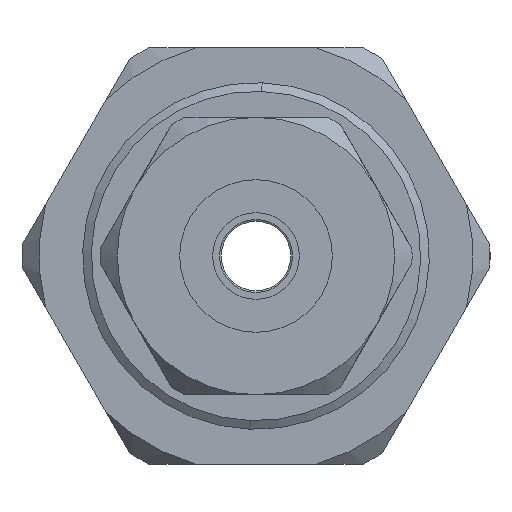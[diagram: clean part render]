
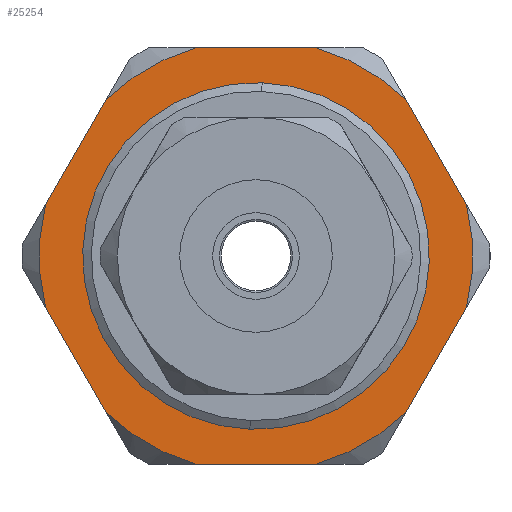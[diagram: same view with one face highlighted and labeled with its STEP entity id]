
A CAD part, front view. The second image highlights one B-rep face of the part: STEP entity #25254.
In plain terms, the highlighted planar face has unit normal (0, -1, 0).
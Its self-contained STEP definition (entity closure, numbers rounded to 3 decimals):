
#51 = EDGE_CURVE ( 'NONE', #14370, #35023, #706, .T. ) ;
#204 = LINE ( 'NONE', #19655, #20515 ) ;
#627 = LINE ( 'NONE', #27781, #20948 ) ;
#705 = EDGE_CURVE ( 'NONE', #30288, #8406, #14824, .T. ) ;
#706 = LINE ( 'NONE', #10835, #29220 ) ;
#1072 = VERTEX_POINT ( 'NONE', #24617 ) ;
#1698 = CIRCLE ( 'NONE', #26756, 12.5 ) ;
#1699 = CIRCLE ( 'NONE', #22076, 9.25 ) ;
#1904 = AXIS2_PLACEMENT_3D ( 'NONE', #28217, #11634, #30977 ) ;
#1966 = VERTEX_POINT ( 'NONE', #32599 ) ;
#1997 = DIRECTION ( 'NONE',  ( 0.866, 0., 0.5 ) ) ;
#2113 = CARTESIAN_POINT ( 'NONE',  ( -27.525, -20.608, 172. ) ) ;
#2259 = CARTESIAN_POINT ( 'NONE',  ( -24.025, -20.608, 160. ) ) ;
#2383 = DIRECTION ( 'NONE',  ( 0., -1., 0. ) ) ;
#2423 = AXIS2_PLACEMENT_3D ( 'NONE', #11741, #31085, #14513 ) ;
#2675 = CIRCLE ( 'NONE', #2423, 12.5 ) ;
#3369 = ORIENTED_EDGE ( 'NONE', *, *, #26616, .T. ) ;
#3647 = EDGE_LOOP ( 'NONE', ( #3369, #32502, #15849, #20356, #4917, #18622, #32172, #10454, #16583, #29407, #32620, #12025 ) ) ;
#4056 = VERTEX_POINT ( 'NONE', #14219 ) ;
#4917 = ORIENTED_EDGE ( 'NONE', *, *, #33790, .T. ) ;
#5017 = DIRECTION ( 'NONE',  ( 0.866, 0., 0.5 ) ) ;
#6797 = DIRECTION ( 'NONE',  ( 0., -1., 0. ) ) ;
#7466 = FACE_OUTER_BOUND ( 'NONE', #3647, .T. ) ;
#8406 = VERTEX_POINT ( 'NONE', #33412 ) ;
#8922 = CARTESIAN_POINT ( 'NONE',  ( -11.882, -20.608, 162.969 ) ) ;
#9483 = CARTESIAN_POINT ( 'NONE',  ( -20.525, -20.608, 172. ) ) ;
#10454 = ORIENTED_EDGE ( 'NONE', *, *, #20064, .T. ) ;
#10835 = CARTESIAN_POINT ( 'NONE',  ( -10.453, -20.608, 160.494 ) ) ;
#11193 = DIRECTION ( 'NONE',  ( 1., 0., 0. ) ) ;
#11562 = CARTESIAN_POINT ( 'NONE',  ( -36.167, -20.608, 157.031 ) ) ;
#11634 = DIRECTION ( 'NONE',  ( 0., -1., 0. ) ) ;
#11741 = CARTESIAN_POINT ( 'NONE',  ( -24.025, -20.608, 160. ) ) ;
#11777 = CIRCLE ( 'NONE', #16466, 12.5 ) ;
#12025 = ORIENTED_EDGE ( 'NONE', *, *, #23357, .T. ) ;
#12374 = DIRECTION ( 'NONE',  ( -1., 0., 0. ) ) ;
#12622 = VERTEX_POINT ( 'NONE', #23686 ) ;
#12735 = EDGE_LOOP ( 'NONE', ( #22148, #21108 ) ) ;
#13950 = CARTESIAN_POINT ( 'NONE',  ( -24.025, -20.608, 160. ) ) ;
#14063 = EDGE_CURVE ( 'NONE', #26608, #24633, #34244, .T. ) ;
#14219 = CARTESIAN_POINT ( 'NONE',  ( -32.035, -20.608, 155.375 ) ) ;
#14370 = VERTEX_POINT ( 'NONE', #8922 ) ;
#14513 = DIRECTION ( 'NONE',  ( 0.866, 0., 0.5 ) ) ;
#14542 = LINE ( 'NONE', #28936, #35777 ) ;
#14633 = VECTOR ( 'NONE', #23004, 1000. ) ;
#14744 = EDGE_CURVE ( 'NONE', #4056, #21649, #1699, .T. ) ;
#14824 = CIRCLE ( 'NONE', #16856, 12.5 ) ;
#15688 = DIRECTION ( 'NONE',  ( 0., 1., 0. ) ) ;
#15849 = ORIENTED_EDGE ( 'NONE', *, *, #51, .T. ) ;
#15984 = DIRECTION ( 'NONE',  ( 0., 1., 0. ) ) ;
#16086 = VECTOR ( 'NONE', #24127, 1000. ) ;
#16466 = AXIS2_PLACEMENT_3D ( 'NONE', #23381, #6797, #26171 ) ;
#16583 = ORIENTED_EDGE ( 'NONE', *, *, #28434, .T. ) ;
#16722 = DIRECTION ( 'NONE',  ( 0.866, 0., 0.5 ) ) ;
#16731 = CARTESIAN_POINT ( 'NONE',  ( -32.667, -20.608, 150.969 ) ) ;
#16751 = CIRCLE ( 'NONE', #30783, 9.25 ) ;
#16812 = EDGE_CURVE ( 'NONE', #24633, #1072, #627, .T. ) ;
#16856 = AXIS2_PLACEMENT_3D ( 'NONE', #23310, #2383, #35052 ) ;
#16991 = VERTEX_POINT ( 'NONE', #9483 ) ;
#17129 = CIRCLE ( 'NONE', #1904, 12.5 ) ;
#17246 = EDGE_CURVE ( 'NONE', #8406, #1966, #23477, .T. ) ;
#17272 = CARTESIAN_POINT ( 'NONE',  ( -15.382, -20.608, 169.031 ) ) ;
#18525 = DIRECTION ( 'NONE',  ( 0., -1., 0. ) ) ;
#18622 = ORIENTED_EDGE ( 'NONE', *, *, #705, .T. ) ;
#19127 = CARTESIAN_POINT ( 'NONE',  ( -16.014, -20.608, 164.625 ) ) ;
#19274 = CARTESIAN_POINT ( 'NONE',  ( -11.882, -20.608, 157.031 ) ) ;
#19278 = PLANE ( 'NONE',  #21495 ) ;
#19512 = DIRECTION ( 'NONE',  ( -0.5, 0., 0.866 ) ) ;
#19655 = CARTESIAN_POINT ( 'NONE',  ( -16.811, -20.608, 148.494 ) ) ;
#20064 = EDGE_CURVE ( 'NONE', #1966, #24566, #17129, .T. ) ;
#20356 = ORIENTED_EDGE ( 'NONE', *, *, #27244, .T. ) ;
#20515 = VECTOR ( 'NONE', #30635, 1000. ) ;
#20948 = VECTOR ( 'NONE', #11193, 1000. ) ;
#21108 = ORIENTED_EDGE ( 'NONE', *, *, #14744, .T. ) ;
#21495 = AXIS2_PLACEMENT_3D ( 'NONE', #13950, #33313, #16722 ) ;
#21579 = DIRECTION ( 'NONE',  ( 0., -1., 0. ) ) ;
#21649 = VERTEX_POINT ( 'NONE', #19127 ) ;
#22076 = AXIS2_PLACEMENT_3D ( 'NONE', #32260, #15688, #35084 ) ;
#22148 = ORIENTED_EDGE ( 'NONE', *, *, #29842, .T. ) ;
#22174 = FACE_BOUND ( 'NONE', #12735, .T. ) ;
#22699 = CARTESIAN_POINT ( 'NONE',  ( -27.525, -20.608, 148. ) ) ;
#23004 = DIRECTION ( 'NONE',  ( 0.5, 0., -0.866 ) ) ;
#23310 = CARTESIAN_POINT ( 'NONE',  ( -24.025, -20.608, 160. ) ) ;
#23357 = EDGE_CURVE ( 'NONE', #1072, #12622, #1698, .T. ) ;
#23381 = CARTESIAN_POINT ( 'NONE',  ( -24.025, -20.608, 160. ) ) ;
#23477 = LINE ( 'NONE', #24001, #16086 ) ;
#23502 = VERTEX_POINT ( 'NONE', #19274 ) ;
#23686 = CARTESIAN_POINT ( 'NONE',  ( -15.382, -20.608, 150.969 ) ) ;
#24001 = CARTESIAN_POINT ( 'NONE',  ( -31.238, -20.608, 171.506 ) ) ;
#24127 = DIRECTION ( 'NONE',  ( -0.5, 0., -0.866 ) ) ;
#24566 = VERTEX_POINT ( 'NONE', #11562 ) ;
#24617 = CARTESIAN_POINT ( 'NONE',  ( -20.525, -20.608, 148. ) ) ;
#24633 = VERTEX_POINT ( 'NONE', #22699 ) ;
#25254 = ADVANCED_FACE ( 'NONE', ( #7466, #22174 ), #19278, .F. ) ;
#26171 = DIRECTION ( 'NONE',  ( 0.866, 0., 0.5 ) ) ;
#26469 = AXIS2_PLACEMENT_3D ( 'NONE', #35126, #18525, #1997 ) ;
#26608 = VERTEX_POINT ( 'NONE', #16731 ) ;
#26616 = EDGE_CURVE ( 'NONE', #12622, #23502, #204, .T. ) ;
#26756 = AXIS2_PLACEMENT_3D ( 'NONE', #2259, #21579, #5017 ) ;
#27244 = EDGE_CURVE ( 'NONE', #35023, #16991, #2675, .T. ) ;
#27781 = CARTESIAN_POINT ( 'NONE',  ( -30.383, -20.608, 148. ) ) ;
#28217 = CARTESIAN_POINT ( 'NONE',  ( -24.025, -20.608, 160. ) ) ;
#28434 = EDGE_CURVE ( 'NONE', #24566, #26608, #35869, .T. ) ;
#28936 = CARTESIAN_POINT ( 'NONE',  ( -17.667, -20.608, 172. ) ) ;
#29220 = VECTOR ( 'NONE', #19512, 1000. ) ;
#29407 = ORIENTED_EDGE ( 'NONE', *, *, #14063, .T. ) ;
#29842 = EDGE_CURVE ( 'NONE', #21649, #4056, #16751, .T. ) ;
#30288 = VERTEX_POINT ( 'NONE', #2113 ) ;
#30635 = DIRECTION ( 'NONE',  ( 0.5, 0., 0.866 ) ) ;
#30783 = AXIS2_PLACEMENT_3D ( 'NONE', #32549, #15984, #35367 ) ;
#30977 = DIRECTION ( 'NONE',  ( 0.866, 0., 0.5 ) ) ;
#31085 = DIRECTION ( 'NONE',  ( 0., -1., 0. ) ) ;
#31257 = EDGE_CURVE ( 'NONE', #23502, #14370, #11777, .T. ) ;
#31578 = CARTESIAN_POINT ( 'NONE',  ( -37.596, -20.608, 159.506 ) ) ;
#32172 = ORIENTED_EDGE ( 'NONE', *, *, #17246, .T. ) ;
#32260 = CARTESIAN_POINT ( 'NONE',  ( -24.025, -20.608, 160. ) ) ;
#32502 = ORIENTED_EDGE ( 'NONE', *, *, #31257, .T. ) ;
#32549 = CARTESIAN_POINT ( 'NONE',  ( -24.025, -20.608, 160. ) ) ;
#32599 = CARTESIAN_POINT ( 'NONE',  ( -36.167, -20.608, 162.969 ) ) ;
#32620 = ORIENTED_EDGE ( 'NONE', *, *, #16812, .T. ) ;
#33313 = DIRECTION ( 'NONE',  ( 0., 1., 0. ) ) ;
#33412 = CARTESIAN_POINT ( 'NONE',  ( -32.667, -20.608, 169.031 ) ) ;
#33790 = EDGE_CURVE ( 'NONE', #16991, #30288, #14542, .T. ) ;
#34244 = CIRCLE ( 'NONE', #26469, 12.5 ) ;
#35023 = VERTEX_POINT ( 'NONE', #17272 ) ;
#35052 = DIRECTION ( 'NONE',  ( 0.866, 0., 0.5 ) ) ;
#35084 = DIRECTION ( 'NONE',  ( 0.866, 0., 0.5 ) ) ;
#35126 = CARTESIAN_POINT ( 'NONE',  ( -24.025, -20.608, 160. ) ) ;
#35367 = DIRECTION ( 'NONE',  ( 0.866, 0., 0.5 ) ) ;
#35777 = VECTOR ( 'NONE', #12374, 1000. ) ;
#35869 = LINE ( 'NONE', #31578, #14633 ) ;
